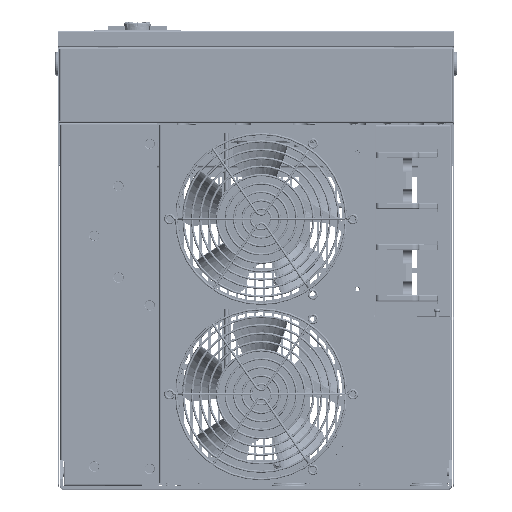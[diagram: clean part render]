
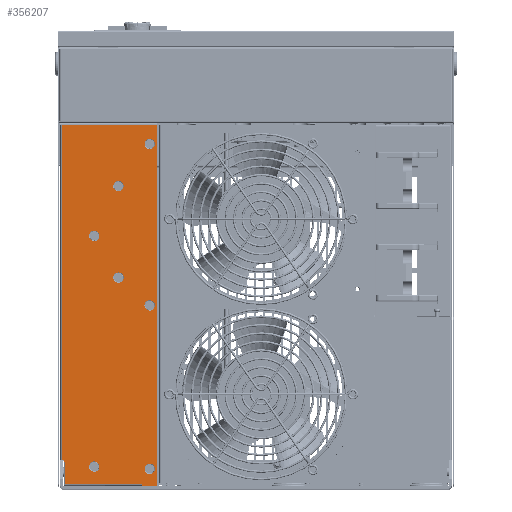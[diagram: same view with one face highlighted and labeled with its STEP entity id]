
A CAD part, top view. The second image highlights one B-rep face of the part: STEP entity #356207.
In plain terms, the highlighted planar face has unit normal (0, 0, 1).
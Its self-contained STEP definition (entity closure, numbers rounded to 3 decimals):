
#18034=FACE_BOUND('',#59788,.T.);
#18035=FACE_BOUND('',#59789,.T.);
#18036=FACE_BOUND('',#59790,.T.);
#18037=FACE_BOUND('',#59791,.T.);
#18038=FACE_BOUND('',#59792,.T.);
#18039=FACE_BOUND('',#59793,.T.);
#18040=FACE_BOUND('',#59794,.T.);
#24017=CIRCLE('',#381630,4.6);
#24018=CIRCLE('',#381631,4.6);
#24019=CIRCLE('',#381632,4.6);
#24020=CIRCLE('',#381633,4.6);
#24021=CIRCLE('',#381634,4.6);
#24022=CIRCLE('',#381635,4.6);
#24023=CIRCLE('',#381636,4.6);
#24024=CIRCLE('',#381637,4.6);
#24025=CIRCLE('',#381638,4.6);
#24026=CIRCLE('',#381639,4.6);
#24027=CIRCLE('',#381640,4.6);
#24028=CIRCLE('',#381641,4.6);
#24029=CIRCLE('',#381642,4.6);
#24030=CIRCLE('',#381643,4.6);
#39667=FACE_OUTER_BOUND('',#59787,.T.);
#59787=EDGE_LOOP('',(#297782,#297783,#297784,#297785,#297786,#297787,#297788,
#297789,#297790,#297791));
#59788=EDGE_LOOP('',(#297792,#297793));
#59789=EDGE_LOOP('',(#297794,#297795));
#59790=EDGE_LOOP('',(#297796,#297797));
#59791=EDGE_LOOP('',(#297798,#297799));
#59792=EDGE_LOOP('',(#297800,#297801));
#59793=EDGE_LOOP('',(#297802,#297803));
#59794=EDGE_LOOP('',(#297804,#297805));
#90728=LINE('',#618033,#127902);
#90742=LINE('',#618088,#127916);
#90744=LINE('',#618091,#127918);
#90745=LINE('',#618093,#127919);
#90746=LINE('',#618094,#127920);
#90747=LINE('',#618096,#127921);
#90748=LINE('',#618098,#127922);
#90749=LINE('',#618099,#127923);
#90750=LINE('',#618101,#127924);
#90751=LINE('',#618102,#127925);
#127902=VECTOR('',#450829,1.7);
#127916=VECTOR('',#450883,2.);
#127918=VECTOR('',#450887,1.7);
#127919=VECTOR('',#450890,19.);
#127920=VECTOR('',#450891,67.3);
#127921=VECTOR('',#450892,13.7);
#127922=VECTOR('',#450893,319.3);
#127923=VECTOR('',#450894,83.8);
#127924=VECTOR('',#450895,296.6);
#127925=VECTOR('',#450896,1.1);
#166968=VERTEX_POINT('',#617982);
#166971=VERTEX_POINT('',#617989);
#166974=VERTEX_POINT('',#617996);
#166978=VERTEX_POINT('',#618005);
#166986=VERTEX_POINT('',#618031);
#167006=VERTEX_POINT('',#618085);
#167007=VERTEX_POINT('',#618087);
#167008=VERTEX_POINT('',#618095);
#167009=VERTEX_POINT('',#618097);
#167010=VERTEX_POINT('',#618100);
#167011=VERTEX_POINT('',#618103);
#167012=VERTEX_POINT('',#618104);
#167013=VERTEX_POINT('',#618107);
#167014=VERTEX_POINT('',#618108);
#167015=VERTEX_POINT('',#618111);
#167016=VERTEX_POINT('',#618112);
#167017=VERTEX_POINT('',#618115);
#167018=VERTEX_POINT('',#618116);
#167019=VERTEX_POINT('',#618119);
#167020=VERTEX_POINT('',#618120);
#167021=VERTEX_POINT('',#618123);
#167022=VERTEX_POINT('',#618124);
#167023=VERTEX_POINT('',#618127);
#167024=VERTEX_POINT('',#618128);
#212338=EDGE_CURVE('',#166971,#166986,#90728,.T.);
#212368=EDGE_CURVE('',#167006,#167007,#90742,.T.);
#212370=EDGE_CURVE('',#166974,#167006,#90744,.T.);
#212371=EDGE_CURVE('',#166968,#166974,#90745,.T.);
#212372=EDGE_CURVE('',#166971,#166968,#90746,.T.);
#212373=EDGE_CURVE('',#166986,#167008,#90747,.T.);
#212374=EDGE_CURVE('',#167008,#167009,#90748,.T.);
#212375=EDGE_CURVE('',#166978,#167009,#90749,.T.);
#212376=EDGE_CURVE('',#167010,#166978,#90750,.T.);
#212377=EDGE_CURVE('',#167010,#167007,#90751,.T.);
#212378=EDGE_CURVE('',#167011,#167012,#24017,.T.);
#212379=EDGE_CURVE('',#167012,#167011,#24018,.T.);
#212380=EDGE_CURVE('',#167013,#167014,#24019,.T.);
#212381=EDGE_CURVE('',#167014,#167013,#24020,.T.);
#212382=EDGE_CURVE('',#167015,#167016,#24021,.T.);
#212383=EDGE_CURVE('',#167016,#167015,#24022,.T.);
#212384=EDGE_CURVE('',#167017,#167018,#24023,.T.);
#212385=EDGE_CURVE('',#167018,#167017,#24024,.T.);
#212386=EDGE_CURVE('',#167019,#167020,#24025,.T.);
#212387=EDGE_CURVE('',#167020,#167019,#24026,.T.);
#212388=EDGE_CURVE('',#167021,#167022,#24027,.T.);
#212389=EDGE_CURVE('',#167022,#167021,#24028,.T.);
#212390=EDGE_CURVE('',#167023,#167024,#24029,.T.);
#212391=EDGE_CURVE('',#167024,#167023,#24030,.T.);
#297782=ORIENTED_EDGE('',*,*,#212368,.F.);
#297783=ORIENTED_EDGE('',*,*,#212370,.F.);
#297784=ORIENTED_EDGE('',*,*,#212371,.F.);
#297785=ORIENTED_EDGE('',*,*,#212372,.F.);
#297786=ORIENTED_EDGE('',*,*,#212338,.T.);
#297787=ORIENTED_EDGE('',*,*,#212373,.T.);
#297788=ORIENTED_EDGE('',*,*,#212374,.T.);
#297789=ORIENTED_EDGE('',*,*,#212375,.F.);
#297790=ORIENTED_EDGE('',*,*,#212376,.F.);
#297791=ORIENTED_EDGE('',*,*,#212377,.T.);
#297792=ORIENTED_EDGE('',*,*,#212378,.T.);
#297793=ORIENTED_EDGE('',*,*,#212379,.T.);
#297794=ORIENTED_EDGE('',*,*,#212380,.T.);
#297795=ORIENTED_EDGE('',*,*,#212381,.T.);
#297796=ORIENTED_EDGE('',*,*,#212382,.T.);
#297797=ORIENTED_EDGE('',*,*,#212383,.T.);
#297798=ORIENTED_EDGE('',*,*,#212384,.T.);
#297799=ORIENTED_EDGE('',*,*,#212385,.T.);
#297800=ORIENTED_EDGE('',*,*,#212386,.T.);
#297801=ORIENTED_EDGE('',*,*,#212387,.T.);
#297802=ORIENTED_EDGE('',*,*,#212388,.T.);
#297803=ORIENTED_EDGE('',*,*,#212389,.T.);
#297804=ORIENTED_EDGE('',*,*,#212390,.T.);
#297805=ORIENTED_EDGE('',*,*,#212391,.T.);
#338406=PLANE('',#381629);
#356207=ADVANCED_FACE('',(#39667,#18034,#18035,#18036,#18037,#18038,#18039,
#18040),#338406,.T.);
#381629=AXIS2_PLACEMENT_3D('',#618092,#450888,#450889);
#381630=AXIS2_PLACEMENT_3D('',#618105,#450897,#450898);
#381631=AXIS2_PLACEMENT_3D('',#618106,#450899,#450900);
#381632=AXIS2_PLACEMENT_3D('',#618109,#450901,#450902);
#381633=AXIS2_PLACEMENT_3D('',#618110,#450903,#450904);
#381634=AXIS2_PLACEMENT_3D('',#618113,#450905,#450906);
#381635=AXIS2_PLACEMENT_3D('',#618114,#450907,#450908);
#381636=AXIS2_PLACEMENT_3D('',#618117,#450909,#450910);
#381637=AXIS2_PLACEMENT_3D('',#618118,#450911,#450912);
#381638=AXIS2_PLACEMENT_3D('',#618121,#450913,#450914);
#381639=AXIS2_PLACEMENT_3D('',#618122,#450915,#450916);
#381640=AXIS2_PLACEMENT_3D('',#618125,#450917,#450918);
#381641=AXIS2_PLACEMENT_3D('',#618126,#450919,#450920);
#381642=AXIS2_PLACEMENT_3D('',#618129,#450921,#450922);
#381643=AXIS2_PLACEMENT_3D('',#618130,#450923,#450924);
#450829=DIRECTION('',(0.,-1.,0.));
#450883=DIRECTION('',(0.,1.,0.));
#450887=DIRECTION('',(-1.,0.,0.));
#450888=DIRECTION('center_axis',(0.,0.,1.));
#450889=DIRECTION('ref_axis',(1.,0.,0.));
#450890=DIRECTION('',(0.,1.,0.));
#450891=DIRECTION('',(-1.,0.,0.));
#450892=DIRECTION('',(1.,0.,0.));
#450893=DIRECTION('',(0.,1.,0.));
#450894=DIRECTION('',(1.,0.,0.));
#450895=DIRECTION('',(0.,1.,0.));
#450896=DIRECTION('',(1.,0.,0.));
#450897=DIRECTION('center_axis',(0.,0.,-1.));
#450898=DIRECTION('ref_axis',(-1.,0.,0.));
#450899=DIRECTION('center_axis',(0.,0.,-1.));
#450900=DIRECTION('ref_axis',(-1.,0.,0.));
#450901=DIRECTION('center_axis',(0.,0.,-1.));
#450902=DIRECTION('ref_axis',(-1.,0.,0.));
#450903=DIRECTION('center_axis',(0.,0.,-1.));
#450904=DIRECTION('ref_axis',(-1.,0.,0.));
#450905=DIRECTION('center_axis',(0.,0.,-1.));
#450906=DIRECTION('ref_axis',(-1.,0.,0.));
#450907=DIRECTION('center_axis',(0.,0.,-1.));
#450908=DIRECTION('ref_axis',(-1.,0.,0.));
#450909=DIRECTION('center_axis',(0.,0.,-1.));
#450910=DIRECTION('ref_axis',(-1.,0.,0.));
#450911=DIRECTION('center_axis',(0.,0.,-1.));
#450912=DIRECTION('ref_axis',(-1.,0.,0.));
#450913=DIRECTION('center_axis',(0.,0.,-1.));
#450914=DIRECTION('ref_axis',(-1.,0.,0.));
#450915=DIRECTION('center_axis',(0.,0.,-1.));
#450916=DIRECTION('ref_axis',(-1.,0.,0.));
#450917=DIRECTION('center_axis',(0.,0.,-1.));
#450918=DIRECTION('ref_axis',(-1.,0.,0.));
#450919=DIRECTION('center_axis',(0.,0.,-1.));
#450920=DIRECTION('ref_axis',(-1.,0.,0.));
#450921=DIRECTION('center_axis',(0.,0.,-1.));
#450922=DIRECTION('ref_axis',(-1.,0.,0.));
#450923=DIRECTION('center_axis',(0.,0.,-1.));
#450924=DIRECTION('ref_axis',(-1.,0.,0.));
#617982=CARTESIAN_POINT('',(-168.5,4.2,339.5));
#617989=CARTESIAN_POINT('',(-101.2,4.2,339.5));
#617996=CARTESIAN_POINT('',(-168.5,23.2,339.5));
#618005=CARTESIAN_POINT('',(-171.3,321.8,339.5));
#618031=CARTESIAN_POINT('',(-101.2,2.5,339.5));
#618033=CARTESIAN_POINT('',(-101.2,4.2,339.5));
#618085=CARTESIAN_POINT('',(-170.2,23.2,339.5));
#618087=CARTESIAN_POINT('',(-170.2,25.2,339.5));
#618088=CARTESIAN_POINT('',(-170.2,23.2,339.5));
#618091=CARTESIAN_POINT('',(-168.5,23.2,339.5));
#618092=CARTESIAN_POINT('Origin',(0.,0.,339.5));
#618093=CARTESIAN_POINT('',(-168.5,4.2,339.5));
#618094=CARTESIAN_POINT('',(-101.2,4.2,339.5));
#618095=CARTESIAN_POINT('',(-87.5,2.5,339.5));
#618096=CARTESIAN_POINT('',(-101.2,2.5,339.5));
#618097=CARTESIAN_POINT('',(-87.5,321.8,339.5));
#618098=CARTESIAN_POINT('',(-87.5,2.5,339.5));
#618099=CARTESIAN_POINT('',(-171.3,321.8,339.5));
#618100=CARTESIAN_POINT('',(-171.3,25.2,339.5));
#618101=CARTESIAN_POINT('',(-171.3,25.2,339.5));
#618102=CARTESIAN_POINT('',(-171.3,25.2,339.5));
#618103=CARTESIAN_POINT('',(-89.4,304.8,339.5));
#618104=CARTESIAN_POINT('',(-94.,309.4,339.5));
#618105=CARTESIAN_POINT('Origin',(-94.,304.8,339.5));
#618106=CARTESIAN_POINT('Origin',(-94.,304.8,339.5));
#618107=CARTESIAN_POINT('',(-117.,186.5,339.5));
#618108=CARTESIAN_POINT('',(-121.6,191.1,339.5));
#618109=CARTESIAN_POINT('Origin',(-121.6,186.5,339.5));
#618110=CARTESIAN_POINT('Origin',(-121.6,186.5,339.5));
#618111=CARTESIAN_POINT('',(-89.4,17.5,339.5));
#618112=CARTESIAN_POINT('',(-94.,22.1,339.5));
#618113=CARTESIAN_POINT('Origin',(-94.,17.5,339.5));
#618114=CARTESIAN_POINT('Origin',(-94.,17.5,339.5));
#618115=CARTESIAN_POINT('',(-89.4,162.,339.5));
#618116=CARTESIAN_POINT('',(-94.,166.6,339.5));
#618117=CARTESIAN_POINT('Origin',(-94.,162.,339.5));
#618118=CARTESIAN_POINT('Origin',(-94.,162.,339.5));
#618119=CARTESIAN_POINT('',(-117.,267.5,339.5));
#618120=CARTESIAN_POINT('',(-121.6,272.1,339.5));
#618121=CARTESIAN_POINT('Origin',(-121.6,267.5,339.5));
#618122=CARTESIAN_POINT('Origin',(-121.6,267.5,339.5));
#618123=CARTESIAN_POINT('',(-138.4,223.5,339.5));
#618124=CARTESIAN_POINT('',(-143.,228.1,339.5));
#618125=CARTESIAN_POINT('Origin',(-143.,223.5,339.5));
#618126=CARTESIAN_POINT('Origin',(-143.,223.5,339.5));
#618127=CARTESIAN_POINT('',(-138.4,19.5,339.5));
#618128=CARTESIAN_POINT('',(-143.,24.1,339.5));
#618129=CARTESIAN_POINT('Origin',(-143.,19.5,339.5));
#618130=CARTESIAN_POINT('Origin',(-143.,19.5,339.5));
